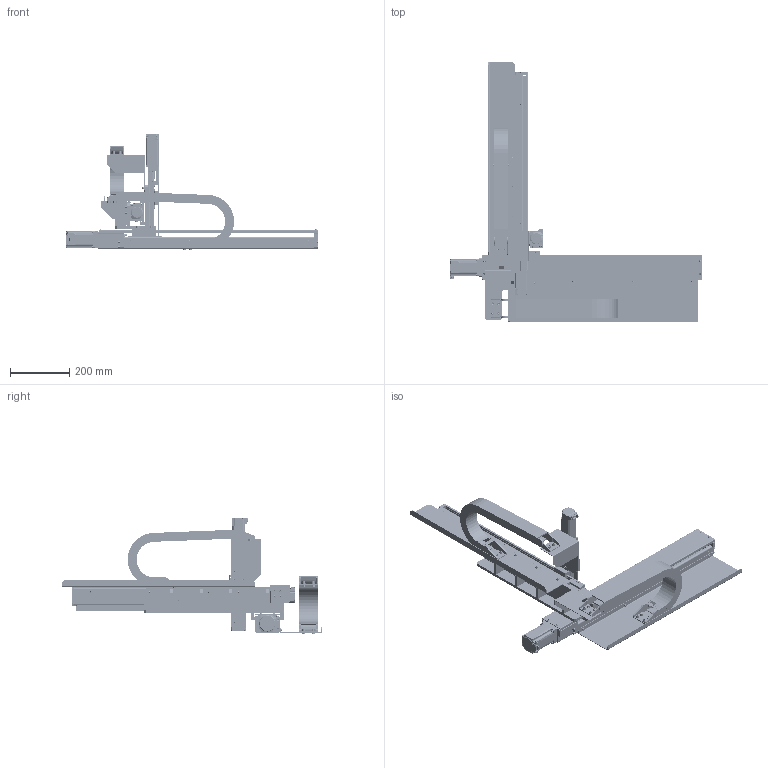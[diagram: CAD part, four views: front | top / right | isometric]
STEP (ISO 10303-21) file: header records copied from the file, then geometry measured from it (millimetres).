
FILE_DESCRIPTION(('CATIA V5 STEP','CAx-IF Rec.Pracs.--- Model Styling and Organization---1.4--- 2014-01-23','CAx-IF Rec.Pracs.---3D Tessellated Data Validation Properties---0.5---2014-09-14'),'2;1');
FILE_NAME('C:\Users\19039\Desktop\184802407690103\Submit\TSKR46SKR33SKR26-4076901.stp','2024-10-23T06:34:18+00:00',('none'),('none'),'CATIA Version 5-6 Release 2018 SP6','CATIA V5 STEP AP242','none');
FILE_SCHEMA(('AP242_MANAGED_MODEL_BASED_3D_ENGINEERING_MIM_LF {1 0 10303 442 1 1 4}'));
Products named in the file (5): TSKR46SKR33SKR26-4076901; X_TSKR46SKR33SKR26-4076901; Y_TSKR46SKR33SKR26-4076901; Z_TSKR46SKR33SKR26-4076901; ZT_TSKR46SKR33SKR26-4076901
Assembly tree (4 placements, depth 2):
  TSKR46SKR33SKR26-4076901
    X_TSKR46SKR33SKR26-4076901
    Y_TSKR46SKR33SKR26-4076901
    Z_TSKR46SKR33SKR26-4076901
    ZT_TSKR46SKR33SKR26-4076901
Bounding box: 850.5 x 874 x 392.4 mm (x, y, z)
Volume: 6044519.1 mm3; surface area: 2192211.1 mm2
Topology: 39 solids, 79 shells, 8800 faces, 22469 edges, 14355 vertices
Faces by surface type: plane 4235, cylinder 3241, cone 1002, torus 298, revolution 14, sphere 10
Entity records: 247865 total; most frequent: CARTESIAN_POINT 48351, ORIENTED_EDGE 44410, DIRECTION 30987, EDGE_CURVE 22205, VERTEX_POINT 14351, AXIS2_PLACEMENT_3D 13113, VECTOR 12815, LINE 12815
